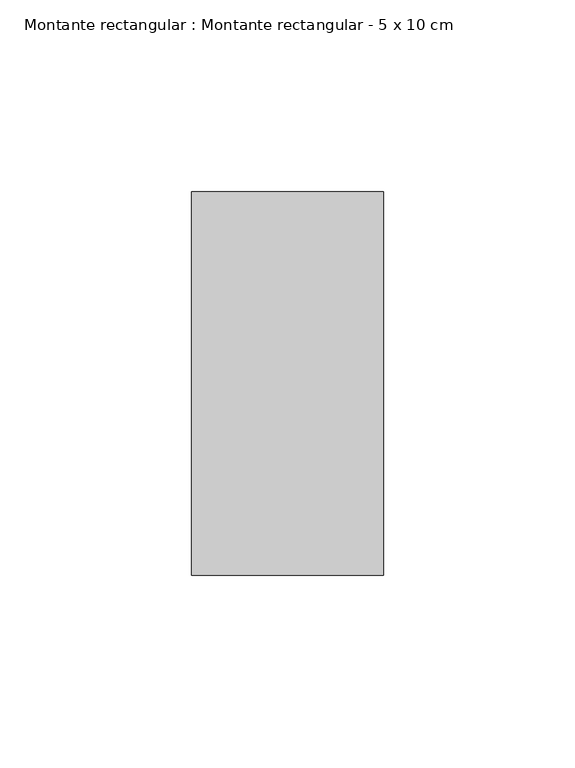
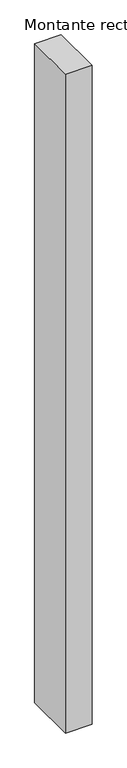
"""IFC4 building model written with IfcOpenShell, lengths in millimetres: member geometry, Montante rectangular : Montante rectangular - 5 x 10 cm."""

import ifcopenshell
import ifcopenshell.guid

model = None  # the IFC model being written
_history = None  # IfcOwnerHistory: only IFC2X3 demands one
_inside = {}  # id of a spatial element -> (the spatial element, [elements in it])
_under = {}  # id of a project, library or spatial element -> (it, [spatial elements below it])
_declared = {}  # id of a project -> (the project, [libraries it declares])
_typed = {}  # id of a type object -> (the type object, [elements of that type])
_made_of = {}  # id of a material, layer set ... -> (it, [elements and type objects made of it])


def new_model(schema):
    """Start an empty IFC model of exactly this schema.

    Asked for "IFC4X3", IfcOpenShell would pick the latest addendum, in which some entities
    have other attributes; the version numbers below select the first issue.
    IFC2X3 requires an IfcOwnerHistory on every rooted entity: one is made here for all.
    """
    global model, _history
    if schema == "IFC4X3":
        model = ifcopenshell.file(schema_version=(4, 3, 0, 0))
    else:
        model = ifcopenshell.file(schema=schema)
    _inside.clear()
    _under.clear()
    _declared.clear()
    _typed.clear()
    _made_of.clear()
    _history = None
    if model.schema == "IFC2X3":
        org = make("IfcOrganization", Name="unknown")
        user = make(
            "IfcPersonAndOrganization",
            ThePerson=make("IfcPerson", FamilyName="unknown"),
            TheOrganization=org,
        )
        app = make(
            "IfcApplication",
            ApplicationDeveloper=org,
            Version="unknown",
            ApplicationFullName="unknown",
            ApplicationIdentifier="unknown",
        )
        _history = make(
            "IfcOwnerHistory",
            OwningUser=user,
            OwningApplication=app,
            ChangeAction="ADDED",
            CreationDate=0,
        )
    return model


def make(cls, **values):
    """One entity of the class cls with the attributes given. An attribute that is None is left unset."""
    return model.create_entity(
        cls, **{name: value for name, value in values.items() if value is not None}
    )


def rooted(cls, **values):
    """An entity with a GlobalId (a new one), such as an element, a storey or a relation."""
    return make(cls, GlobalId=ifcopenshell.guid.new(), OwnerHistory=_history, **values)


def si_unit(unit_type, name, prefix=None):
    """IfcSIUnit, for example si_unit("LENGTHUNIT", "METRE", prefix="MILLI")."""
    return make("IfcSIUnit", UnitType=unit_type, Prefix=prefix, Name=name)


def assignment(units):
    """IfcUnitAssignment: the units of a project."""
    return None if units is None else make("IfcUnitAssignment", Units=units)


def point(xyz):
    """IfcCartesianPoint."""
    return None if xyz is None else make("IfcCartesianPoint", Coordinates=xyz)


def direction(xyz):
    """IfcDirection."""
    return None if xyz is None else make("IfcDirection", DirectionRatios=xyz)


def frame(location, z_axis=None, x_axis=None):
    """IfcAxis2Placement3D, a coordinate frame: its origin and axes. An axis left out is left unset."""
    return make(
        "IfcAxis2Placement3D",
        Location=point(location),
        Axis=direction(z_axis),
        RefDirection=direction(x_axis),
    )


def origin():
    """The frame at (0, 0, 0) with its axes left unset."""
    return frame((0.0, 0.0, 0.0))


def place(relative_to, where):
    """IfcLocalPlacement: puts the frame where relative to a parent placement (None: the world)."""
    return make(
        "IfcLocalPlacement", PlacementRelTo=relative_to, RelativePlacement=where
    )


def context(
    kind, dimensions, precision=None, world=None, true_north=None, identifier=None
):
    """IfcGeometricRepresentationContext, for example the 3D "Model" context."""
    return make(
        "IfcGeometricRepresentationContext",
        ContextIdentifier=identifier,
        ContextType=kind,
        CoordinateSpaceDimension=dimensions,
        Precision=precision,
        WorldCoordinateSystem=world,
        TrueNorth=true_north,
    )


def project(units=None, contexts=None):
    """IfcProject with its units and contexts."""
    return rooted(
        "IfcProject",
        Name="project",
        RepresentationContexts=contexts,
        UnitsInContext=assignment(units),
    )


def spatial(cls, under=None, at=None, **own):
    """A site, building, storey or space (cls), placed at a placement, below another one or the project."""
    s = rooted(cls, ObjectPlacement=at, **own)
    if under is not None:
        _under.setdefault(under.id(), (under, []))[1].append(s)
    return s


def polyline(points):
    """IfcPolyline through the points."""
    return make("IfcPolyline", Points=[point(p) for p in points])


def outline(outer, holes=None, kind="AREA"):
    """IfcArbitraryClosedProfileDef: a profile drawn as a closed curve; with holes, ...WithVoids."""
    if holes is None:
        return make("IfcArbitraryClosedProfileDef", ProfileType=kind, OuterCurve=outer)
    return make(
        "IfcArbitraryProfileDefWithVoids",
        ProfileType=kind,
        OuterCurve=outer,
        InnerCurves=holes,
    )


def extrude(swept, where, along, depth):
    """IfcExtrudedAreaSolid: the profile swept, set in the frame where, extruded along a direction by depth."""
    return make(
        "IfcExtrudedAreaSolid",
        SweptArea=swept,
        Position=where,
        ExtrudedDirection=direction(along),
        Depth=depth,
    )


def shape(context_of_items, identifier, shape_type, items):
    """IfcShapeRepresentation: the items that make up one representation, for example the "Body"."""
    return make(
        "IfcShapeRepresentation",
        ContextOfItems=context_of_items,
        RepresentationIdentifier=identifier,
        RepresentationType=shape_type,
        Items=items,
    )


def source(mapping_origin, context_of_items, identifier, shape_type, items):
    """IfcRepresentationMap: a shape defined once, which mapped items show again and again."""
    return make(
        "IfcRepresentationMap",
        MappingOrigin=mapping_origin,
        MappedRepresentation=shape(context_of_items, identifier, shape_type, items),
    )


def transform(
    local_origin,
    x_axis=None,
    y_axis=None,
    z_axis=None,
    scale=None,
    scale2=None,
    scale3=None,
    uniform=True,
):
    """IfcCartesianTransformationOperator3D, or its non-uniform kind. x_axis, y_axis, z_axis: its Axis1, 2, 3."""
    if uniform:
        return make(
            "IfcCartesianTransformationOperator3D",
            Axis1=direction(x_axis),
            Axis2=direction(y_axis),
            LocalOrigin=point(local_origin),
            Scale=scale,
            Axis3=direction(z_axis),
        )
    return make(
        "IfcCartesianTransformationOperator3DnonUniform",
        Axis1=direction(x_axis),
        Axis2=direction(y_axis),
        LocalOrigin=point(local_origin),
        Scale=scale,
        Axis3=direction(z_axis),
        Scale2=scale2,
        Scale3=scale3,
    )


def mapped(mapping_source, mapping_target):
    """IfcMappedItem: shows the shape of a source again, moved by a transform."""
    return make(
        "IfcMappedItem", MappingSource=mapping_source, MappingTarget=mapping_target
    )


def made_of(thing, what):
    """Note that an element or type object is made of a material, layer set ...; save() writes the relation."""
    if what is not None:
        _made_of.setdefault(what.id(), (what, []))[1].append(thing)
    return thing


def element(
    cls,
    number,
    at=None,
    inside=None,
    cuts=None,
    type_object=None,
    material=None,
    context=None,
    identifier="Body",
    shape_type=None,
    held_by="IfcProductDefinitionShape",
    body=None,
    shapes=None,
    **own,
):
    """One element of the class cls, such as IfcWall. Its Tag is "e" and its number.

    at: its placement. inside: the storey or other place that contains it. cuts: it is an
    opening in that element (IfcRelVoidsElement). A single representation is given by context,
    identifier, shape_type and body (its items); several are given by shapes. held_by: the class
    of the entity that holds the representations. save() writes the other relations.
    """
    e = rooted(cls, Tag="e%d" % number, ObjectPlacement=at, **own)
    if body is not None:
        shapes = [shape(context, identifier, shape_type, body)]
    if shapes is not None:
        e.Representation = make(held_by, Representations=shapes)
    if inside is not None:
        _inside.setdefault(inside.id(), (inside, []))[1].append(e)
    if cuts is not None:
        rooted(
            "IfcRelVoidsElement", RelatingBuildingElement=cuts, RelatedOpeningElement=e
        )
    if type_object is not None:
        _typed.setdefault(type_object.id(), (type_object, []))[1].append(e)
    return made_of(e, material)


def aggregate(whole, parts):
    """IfcRelAggregates: a whole, such as a stair, and the parts it consists of."""
    return rooted("IfcRelAggregates", RelatingObject=whole, RelatedObjects=parts)


def save(model, path):
    """Write the relations noted so far, then the file.

    IfcRelAggregates (storeys below a building ...), IfcRelContainedInSpatialStructure (elements
    in a storey), IfcRelDefinesByType, IfcRelAssociatesMaterial and IfcRelDeclares: one each for
    every whole, place, type object, material and project.
    """
    for whole, parts in _under.values():
        aggregate(whole, parts)
    for where, things in _inside.values():
        rooted(
            "IfcRelContainedInSpatialStructure",
            RelatedElements=things,
            RelatingStructure=where,
        )
    for kind, things in _typed.values():
        rooted("IfcRelDefinesByType", RelatedObjects=things, RelatingType=kind)
    for what, things in _made_of.values():
        rooted("IfcRelAssociatesMaterial", RelatedObjects=things, RelatingMaterial=what)
    for by, libraries in _declared.values():
        rooted("IfcRelDeclares", RelatingContext=by, RelatedDefinitions=libraries)
    model.write(path)


def montante_rectangular_montante_rectangular_5_x_10_cm_3321789d(model_context):
    return source(origin(), model_context, "Body", "SweptSolid", [
        extrude(outline(polyline([(0.0, 50.0), (0.0, -50.0), (-50.0, -50.0), (-50.0, 50.0), (0.0, 50.0)])), frame((0.0, 0.0, -1311.7370587), z_axis=(0.0, 0.0, 1.0), x_axis=(1.0, 0.0, 0.0)), (0.0, 0.0, 1.0), 1311.7370587),
    ])


if __name__ == "__main__":
    model = new_model("IFC4")
    model_context = context("Model", 3, world=origin())
    ifc_project = project(units=[si_unit("LENGTHUNIT", "METRE", prefix="MILLI")], contexts=[model_context])
    site = spatial("IfcSite", under=ifc_project)
    building = spatial("IfcBuilding", under=site)
    placement = place(None, origin())
    montante_rectangular_montante_rectangular_5_x_10_cm_shape = montante_rectangular_montante_rectangular_5_x_10_cm_3321789d(model_context)
    element("IfcMember", 1, ObjectType="Montante rectangular : Montante rectangular - 5 x 10 cm", at=placement, inside=building, context=model_context, shape_type="MappedRepresentation", body=[
        mapped(montante_rectangular_montante_rectangular_5_x_10_cm_shape, transform((0.0, 0.0, 0.0), x_axis=(1.0, 0.0, 0.0), y_axis=(0.0, 1.0, 0.0), z_axis=(0.0, 0.0, 1.0))),
    ])
    save(model, "model.ifc")
